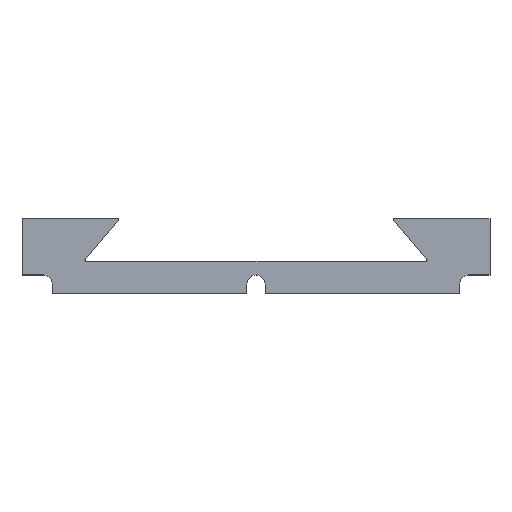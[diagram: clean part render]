
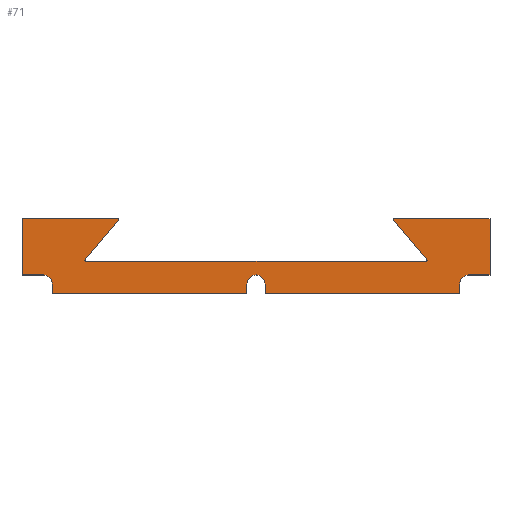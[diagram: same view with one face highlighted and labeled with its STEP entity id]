
A CAD part, top view. The second image highlights one B-rep face of the part: STEP entity #71.
In plain terms, the highlighted planar face has unit normal (0, 0, 1).
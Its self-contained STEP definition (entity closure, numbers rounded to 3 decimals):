
#40=CIRCLE('',#507,3.);
#42=CIRCLE('',#513,3.);
#44=CIRCLE('',#519,3.);
#45=CIRCLE('',#523,0.3);
#46=CIRCLE('',#524,0.3);
#47=CIRCLE('',#525,0.3);
#48=CIRCLE('',#526,0.3);
#71=ADVANCED_FACE('',(#112),#92,.T.);
#92=PLANE('',#527);
#112=FACE_OUTER_BOUND('',#136,.T.);
#136=EDGE_LOOP('',(#214,#215,#216,#217,#218,#219,#220,#221,#222,#223,#224,
#225,#226,#227,#228,#229,#230,#231,#232,#233,#234,#235));
#214=ORIENTED_EDGE('',*,*,#336,.F.);
#215=ORIENTED_EDGE('',*,*,#376,.T.);
#216=ORIENTED_EDGE('',*,*,#330,.F.);
#217=ORIENTED_EDGE('',*,*,#377,.T.);
#218=ORIENTED_EDGE('',*,*,#326,.F.);
#219=ORIENTED_EDGE('',*,*,#378,.T.);
#220=ORIENTED_EDGE('',*,*,#324,.F.);
#221=ORIENTED_EDGE('',*,*,#379,.T.);
#222=ORIENTED_EDGE('',*,*,#318,.F.);
#223=ORIENTED_EDGE('',*,*,#375,.F.);
#224=ORIENTED_EDGE('',*,*,#372,.F.);
#225=ORIENTED_EDGE('',*,*,#369,.F.);
#226=ORIENTED_EDGE('',*,*,#366,.F.);
#227=ORIENTED_EDGE('',*,*,#363,.F.);
#228=ORIENTED_EDGE('',*,*,#360,.F.);
#229=ORIENTED_EDGE('',*,*,#357,.F.);
#230=ORIENTED_EDGE('',*,*,#354,.F.);
#231=ORIENTED_EDGE('',*,*,#351,.F.);
#232=ORIENTED_EDGE('',*,*,#348,.F.);
#233=ORIENTED_EDGE('',*,*,#345,.F.);
#234=ORIENTED_EDGE('',*,*,#342,.F.);
#235=ORIENTED_EDGE('',*,*,#339,.F.);
#274=VERTEX_POINT('',#672);
#275=VERTEX_POINT('',#673);
#280=VERTEX_POINT('',#684);
#281=VERTEX_POINT('',#686);
#282=VERTEX_POINT('',#690);
#283=VERTEX_POINT('',#691);
#286=VERTEX_POINT('',#699);
#287=VERTEX_POINT('',#700);
#292=VERTEX_POINT('',#711);
#293=VERTEX_POINT('',#713);
#295=VERTEX_POINT('',#719);
#297=VERTEX_POINT('',#725);
#299=VERTEX_POINT('',#731);
#301=VERTEX_POINT('',#737);
#303=VERTEX_POINT('',#743);
#305=VERTEX_POINT('',#749);
#307=VERTEX_POINT('',#755);
#309=VERTEX_POINT('',#761);
#311=VERTEX_POINT('',#767);
#313=VERTEX_POINT('',#773);
#315=VERTEX_POINT('',#779);
#317=VERTEX_POINT('',#785);
#318=EDGE_CURVE('',#274,#275,#384,.T.);
#324=EDGE_CURVE('',#280,#281,#390,.T.);
#326=EDGE_CURVE('',#282,#283,#392,.T.);
#330=EDGE_CURVE('',#286,#287,#396,.T.);
#336=EDGE_CURVE('',#292,#293,#402,.T.);
#339=EDGE_CURVE('',#293,#295,#405,.T.);
#342=EDGE_CURVE('',#295,#297,#408,.T.);
#345=EDGE_CURVE('',#297,#299,#40,.T.);
#348=EDGE_CURVE('',#299,#301,#412,.T.);
#351=EDGE_CURVE('',#301,#303,#415,.T.);
#354=EDGE_CURVE('',#303,#305,#418,.T.);
#357=EDGE_CURVE('',#305,#307,#42,.T.);
#360=EDGE_CURVE('',#307,#309,#422,.T.);
#363=EDGE_CURVE('',#309,#311,#425,.T.);
#366=EDGE_CURVE('',#311,#313,#428,.T.);
#369=EDGE_CURVE('',#313,#315,#44,.T.);
#372=EDGE_CURVE('',#315,#317,#432,.T.);
#375=EDGE_CURVE('',#317,#274,#435,.T.);
#376=EDGE_CURVE('',#292,#287,#45,.T.);
#377=EDGE_CURVE('',#286,#283,#46,.T.);
#378=EDGE_CURVE('',#282,#281,#47,.T.);
#379=EDGE_CURVE('',#280,#275,#48,.T.);
#384=LINE('',#671,#436);
#390=LINE('',#685,#442);
#392=LINE('',#689,#444);
#396=LINE('',#698,#448);
#402=LINE('',#712,#454);
#405=LINE('',#718,#457);
#408=LINE('',#724,#460);
#412=LINE('',#736,#464);
#415=LINE('',#742,#467);
#418=LINE('',#748,#470);
#422=LINE('',#760,#474);
#425=LINE('',#766,#477);
#428=LINE('',#772,#480);
#432=LINE('',#784,#484);
#435=LINE('',#789,#487);
#436=VECTOR('',#541,1.);
#442=VECTOR('',#549,1.);
#444=VECTOR('',#553,1.);
#448=VECTOR('',#559,1.);
#454=VECTOR('',#567,1.);
#457=VECTOR('',#572,1.);
#460=VECTOR('',#577,1.);
#464=VECTOR('',#589,1.);
#467=VECTOR('',#594,1.);
#470=VECTOR('',#599,1.);
#474=VECTOR('',#611,1.);
#477=VECTOR('',#616,1.);
#480=VECTOR('',#621,1.);
#484=VECTOR('',#633,1.);
#487=VECTOR('',#638,1.);
#507=AXIS2_PLACEMENT_3D('',#730,#583,#584);
#513=AXIS2_PLACEMENT_3D('',#754,#605,#606);
#519=AXIS2_PLACEMENT_3D('',#778,#627,#628);
#523=AXIS2_PLACEMENT_3D('',#791,#641,#642);
#524=AXIS2_PLACEMENT_3D('',#792,#643,#644);
#525=AXIS2_PLACEMENT_3D('',#793,#645,#646);
#526=AXIS2_PLACEMENT_3D('',#794,#647,#648);
#527=AXIS2_PLACEMENT_3D('',#795,#649,#650);
#541=DIRECTION('',(1.,0.,0.));
#549=DIRECTION('',(-0.643,-0.766,0.));
#553=DIRECTION('',(1.,0.,0.));
#559=DIRECTION('',(-0.643,0.766,0.));
#567=DIRECTION('',(1.,0.,0.));
#572=DIRECTION('',(0.,-1.,0.));
#577=DIRECTION('',(-1.,0.,0.));
#583=DIRECTION('',(0.,0.,1.));
#584=DIRECTION('',(1.,0.,0.));
#589=DIRECTION('',(0.,-1.,0.));
#594=DIRECTION('',(-1.,0.,0.));
#599=DIRECTION('',(0.,1.,0.));
#605=DIRECTION('',(0.,0.,1.));
#606=DIRECTION('',(1.,0.,0.));
#611=DIRECTION('',(0.,-1.,0.));
#616=DIRECTION('',(-1.,0.,0.));
#621=DIRECTION('',(0.,1.,0.));
#627=DIRECTION('',(0.,0.,1.));
#628=DIRECTION('',(1.,0.,0.));
#633=DIRECTION('',(-1.,0.,0.));
#638=DIRECTION('',(0.,1.,0.));
#641=DIRECTION('',(0.,0.,1.));
#642=DIRECTION('',(1.,0.,0.));
#643=DIRECTION('',(0.,0.,-1.));
#644=DIRECTION('',(1.,0.,0.));
#645=DIRECTION('',(0.,0.,-1.));
#646=DIRECTION('',(1.,0.,0.));
#647=DIRECTION('',(0.,0.,1.));
#648=DIRECTION('',(1.,0.,0.));
#649=DIRECTION('',(0.,0.,1.));
#650=DIRECTION('',(1.,0.,0.));
#671=CARTESIAN_POINT('',(0.,24.5,3.));
#672=CARTESIAN_POINT('',(0.,24.5,3.));
#673=CARTESIAN_POINT('',(31.457,24.5,3.));
#684=CARTESIAN_POINT('',(31.686,24.007,3.));
#685=CARTESIAN_POINT('',(32.1,24.5,3.));
#686=CARTESIAN_POINT('',(20.766,10.993,3.));
#689=CARTESIAN_POINT('',(20.353,10.5,3.));
#690=CARTESIAN_POINT('',(20.996,10.5,3.));
#691=CARTESIAN_POINT('',(133.004,10.5,3.));
#698=CARTESIAN_POINT('',(133.647,10.5,3.));
#699=CARTESIAN_POINT('',(133.234,10.993,3.));
#700=CARTESIAN_POINT('',(122.314,24.007,3.));
#711=CARTESIAN_POINT('',(122.543,24.5,3.));
#712=CARTESIAN_POINT('',(121.9,24.5,3.));
#713=CARTESIAN_POINT('',(154.,24.5,3.));
#718=CARTESIAN_POINT('',(154.,24.5,3.));
#719=CARTESIAN_POINT('',(154.,6.,3.));
#724=CARTESIAN_POINT('',(154.,6.,3.));
#725=CARTESIAN_POINT('',(147.,6.,3.));
#730=CARTESIAN_POINT('',(147.,3.,3.));
#731=CARTESIAN_POINT('',(144.,3.,3.));
#736=CARTESIAN_POINT('',(144.,3.,3.));
#737=CARTESIAN_POINT('',(144.,0.,3.));
#742=CARTESIAN_POINT('',(144.,0.,3.));
#743=CARTESIAN_POINT('',(80.,0.,3.));
#748=CARTESIAN_POINT('',(80.,0.,3.));
#749=CARTESIAN_POINT('',(80.,3.,3.));
#754=CARTESIAN_POINT('',(77.,3.,3.));
#755=CARTESIAN_POINT('',(74.,3.,3.));
#760=CARTESIAN_POINT('',(74.,3.,3.));
#761=CARTESIAN_POINT('',(74.,0.,3.));
#766=CARTESIAN_POINT('',(74.,0.,3.));
#767=CARTESIAN_POINT('',(10.,0.,3.));
#772=CARTESIAN_POINT('',(10.,0.,3.));
#773=CARTESIAN_POINT('',(10.,3.,3.));
#778=CARTESIAN_POINT('',(7.,3.,3.));
#779=CARTESIAN_POINT('',(7.,6.,3.));
#784=CARTESIAN_POINT('',(7.,6.,3.));
#785=CARTESIAN_POINT('',(0.,6.,3.));
#789=CARTESIAN_POINT('',(0.,6.,3.));
#791=CARTESIAN_POINT('',(122.543,24.2,3.));
#792=CARTESIAN_POINT('',(133.004,10.8,3.));
#793=CARTESIAN_POINT('',(20.996,10.8,3.));
#794=CARTESIAN_POINT('',(31.457,24.2,3.));
#795=CARTESIAN_POINT('',(147.,3.,3.));
